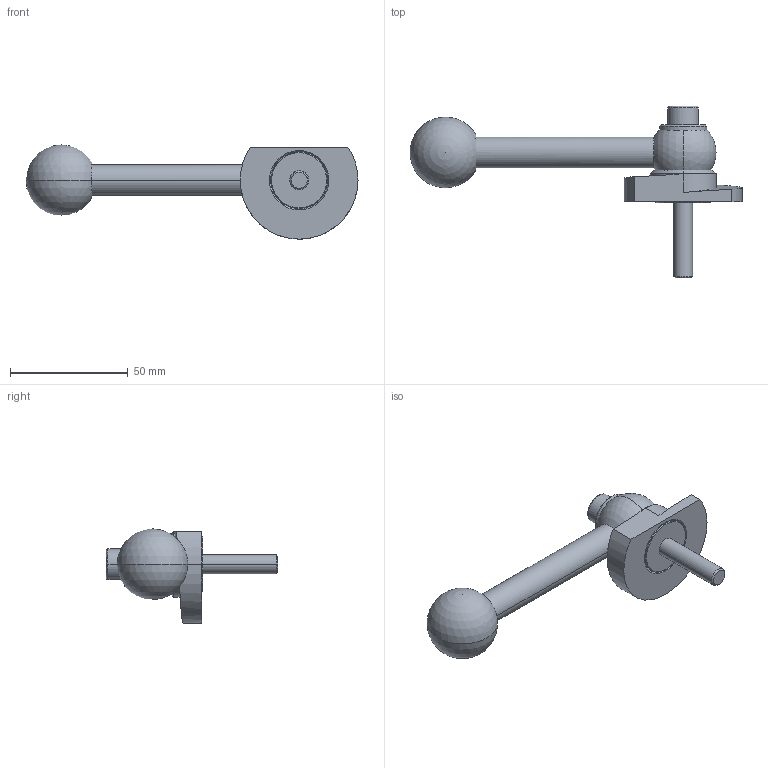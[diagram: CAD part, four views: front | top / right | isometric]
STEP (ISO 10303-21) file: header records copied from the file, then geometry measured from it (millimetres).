
FILE_DESCRIPTION (( 'STEP AP214' ), '1' );
FILE_NAME ('918.1-50-GVS-R-32.step', '2024-05-15T13:01:53', ( '' ), ( '' ), 'SwSTEP 2.0', 'SolidWorks 2022', '' );
FILE_SCHEMA (( 'AUTOMOTIVE_DESIGN' ));
Length unit declared in the file: millimetre
Products named in the file (1): 918.1-50-GVS-R-32
Bounding box: 141 x 73 x 40 mm (x, y, z)
Volume: 52582.6 mm3; surface area: 16148.1 mm2
Topology: 1 solids, 1 shells, 62 faces, 141 edges, 89 vertices
Faces by surface type: plane 20, cylinder 19, cone 14, sphere 4, bspline 3, torus 2
Entity records: 2011 total; most frequent: CARTESIAN_POINT 618, DIRECTION 305, ORIENTED_EDGE 262, EDGE_CURVE 131, AXIS2_PLACEMENT_3D 125, VERTEX_POINT 83, EDGE_LOOP 74, CIRCLE 65
